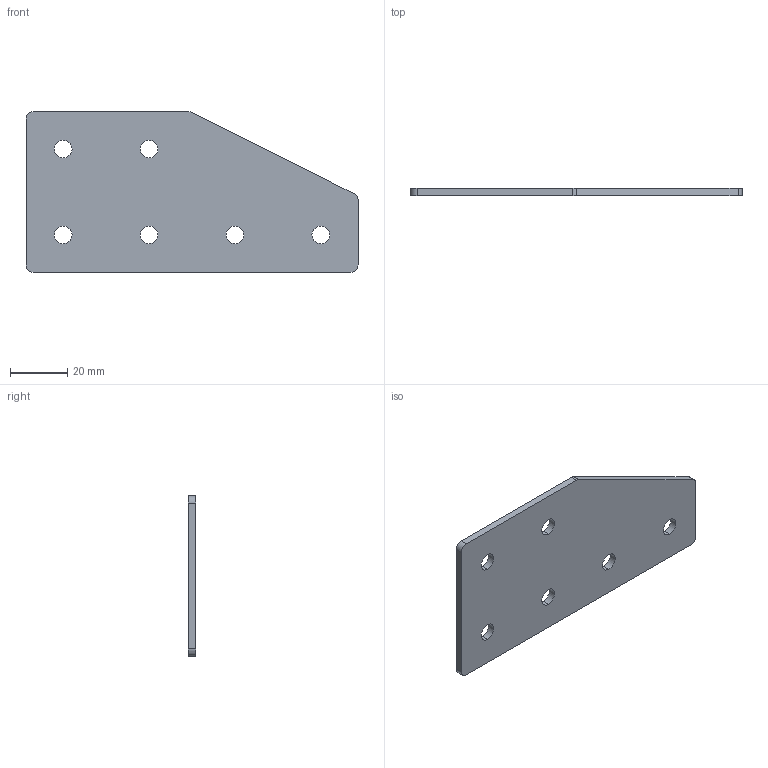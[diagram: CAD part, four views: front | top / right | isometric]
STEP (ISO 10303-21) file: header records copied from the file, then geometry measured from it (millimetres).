
FILE_DESCRIPTION (( 'STEP AP203' ), '1' );
FILE_NAME ('ã-6-ó-30.STEP', '2016-07-20T09:37:00', ( '' ), ( '' ), 'SwSTEP 2.0', 'SolidWorks 2014', '' );
FILE_SCHEMA (( 'CONFIG_CONTROL_DESIGN' ));
Length unit declared in the file: millimetre
Products named in the file (1): ã-6-ó-30
Bounding box: 116 x 2.5 x 56 mm (x, y, z)
Surface area: 11998.7 mm2 (no closed solid volume)
Topology: 0 solids, 1 shells, 24 faces, 66 edges, 44 vertices
Faces by surface type: cylinder 17, plane 7
Entity records: 885 total; most frequent: DIRECTION 150, CARTESIAN_POINT 135, ORIENTED_EDGE 132, EDGE_CURVE 66, AXIS2_PLACEMENT_3D 59, VERTEX_POINT 44, EDGE_LOOP 36, CIRCLE 34
